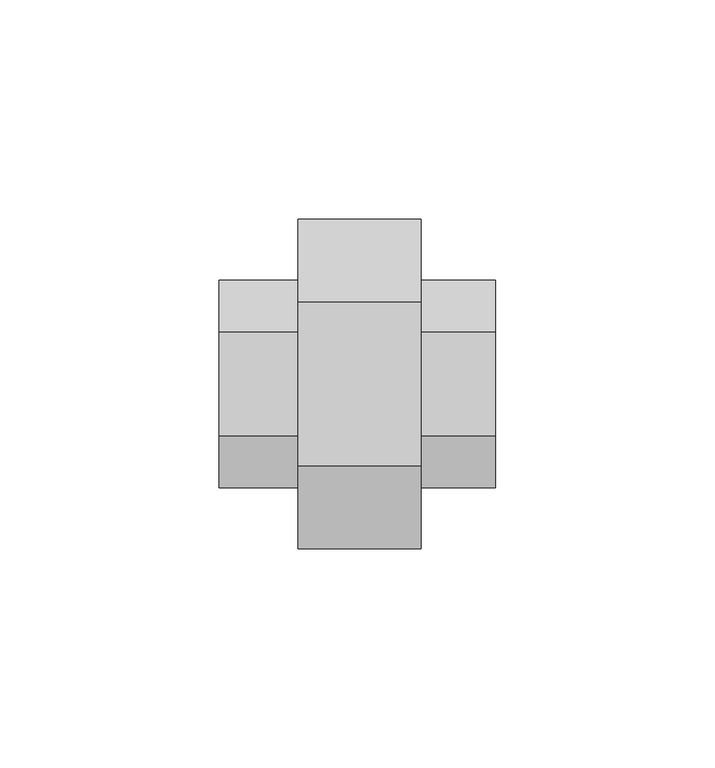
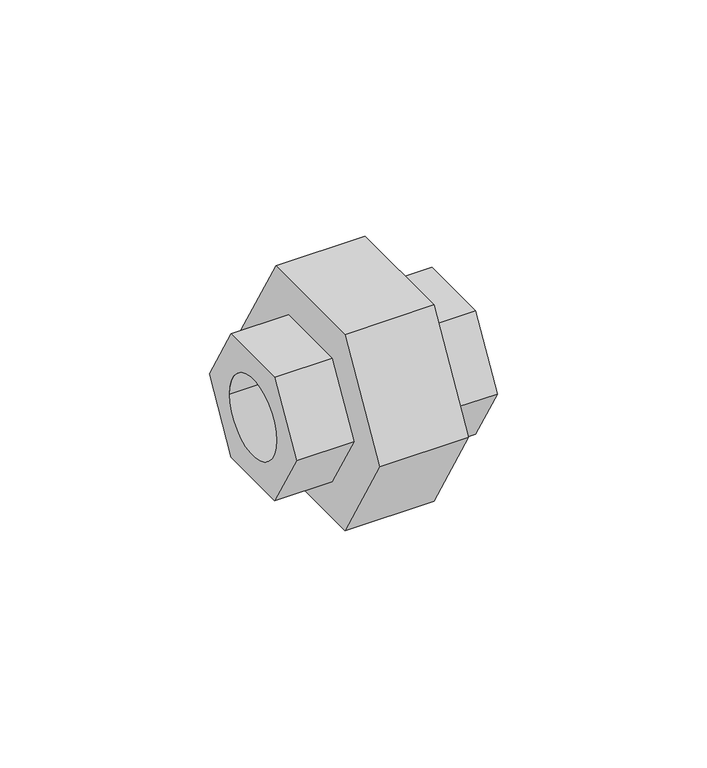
"""IFC4 building model written with IfcOpenShell, lengths in millimetres: pipe fitting geometry, 01011014 : Junções."""

from ifc_helpers import new_model, si_unit, frame, origin, place, context, project, spatial, polyline, circle_curve, source, transform, mapped, element, save
from ifc_brep_helpers import plane_surface, revolved_surface, advanced_brep


def pipe_fitting_54e7bb2c(model_context):
    return source(origin(), model_context, "Body", "AdvancedBrep", [
        advanced_brep(
        [(18.0, -18.7638837, 32.5), (18.0, -37.5277675, 0.0), (18.0, -18.7638837, -32.5), (18.0, 18.7638837, -32.5), (18.0, 37.5277675, 0.0), (18.0, 18.7638837, 32.5), (18.0, -11.8356805, 20.5), (18.0, 11.8356805, 20.5), (18.0, 23.671361, 0.0), (18.0, 11.8356805, -20.5), (18.0, -11.8356805, -20.5), (18.0, -23.671361, 0.0), (-10.0, -18.7638837, 32.5), (-10.0, 18.7638837, 32.5), (-10.0, 37.5277675, 0.0), (-10.0, 18.7638837, -32.5), (-10.0, -18.7638837, -32.5), (-10.0, -37.5277675, 0.0), (-10.0, 11.8356805, 20.5), (-10.0, -11.8356805, 20.5), (-10.0, -23.671361, 0.0), (-10.0, -11.8356805, -20.5), (-10.0, 11.8356805, -20.5), (-10.0, 23.671361, 0.0), (-28.0, -11.8356805, 20.5), (-28.0, 11.8356805, 20.5), (-28.0, 23.671361, 0.0), (-28.0, 11.8356805, -20.5), (-28.0, -11.8356805, -20.5), (-28.0, -23.671361, 0.0), (-28.0, -12.7, 0.0), (-28.0, 12.7, 0.0), (35.0, -11.8356805, 20.5), (35.0, -23.671361, 0.0), (35.0, -11.8356805, -20.5), (35.0, 11.8356805, -20.5), (35.0, 23.671361, 0.0), (35.0, 11.8356805, 20.5), (35.0, 12.7, 0.0), (35.0, -12.7, 0.0)],
        [
            (0, 1),
            (1, 2),
            (2, 3),
            (3, 4),
            (4, 5),
            (5, 0),
            (6, 7),
            (7, 8),
            (8, 9),
            (9, 10),
            (10, 11),
            (11, 6),
            (12, 13),
            (13, 14),
            (14, 15),
            (15, 16),
            (16, 17),
            (17, 12),
            (18, 19),
            (19, 20),
            (20, 21),
            (21, 22),
            (22, 23),
            (23, 18),
            (0, 12),
            (17, 1),
            (16, 2),
            (15, 3),
            (14, 4),
            (13, 5),
            (24, 25),
            (25, 26),
            (26, 27),
            (27, 28),
            (28, 29),
            (29, 24),
            (30, 31, circle_curve(frame((-28.0, 0.0, 0.0), z_axis=(1.0, 0.0, 0.0), x_axis=(0.0, 1.0, 0.0)), 12.7)),
            (31, 30, circle_curve(frame((-28.0, 0.0, 0.0), z_axis=(1.0, 0.0, 0.0), x_axis=(0.0, 1.0, 0.0)), 12.7)),
            (32, 33),
            (33, 34),
            (34, 35),
            (35, 36),
            (36, 37),
            (37, 32),
            (38, 39, circle_curve(frame((35.0, 0.0, 0.0), z_axis=(-1.0, 0.0, 0.0), x_axis=(0.0, 1.0, 0.0)), 12.7)),
            (39, 38, circle_curve(frame((35.0, 0.0, 0.0), z_axis=(-1.0, 0.0, 0.0), x_axis=(0.0, 1.0, 0.0)), 12.7)),
            (24, 19),
            (18, 25),
            (37, 7),
            (6, 32),
            (23, 26),
            (36, 8),
            (22, 27),
            (35, 9),
            (21, 28),
            (34, 10),
            (20, 29),
            (33, 11),
            (38, 31),
            (30, 39),
        ],
        [
            plane_surface(frame((18.0, -18.7638837, 32.5), z_axis=(1.0, 0.0, 0.0), x_axis=(0.0, -0.5000000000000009, -0.8660254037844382))),
            plane_surface(frame((-10.0, -18.7638837, 32.5), z_axis=(-1.0, 0.0, 0.0), x_axis=(0.0, 0.5000000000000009, 0.8660254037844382))),
            plane_surface(frame((18.0, -18.7638837, 32.5), z_axis=(0.0, -0.8660254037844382, 0.5000000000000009), x_axis=(-1.0, 0.0, 0.0))),
            plane_surface(frame((18.0, -37.5277675, 0.0), z_axis=(0.0, -0.8660254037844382, -0.500000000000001), x_axis=(-1.0, 0.0, 0.0))),
            plane_surface(frame((18.0, -18.7638837, -32.5), z_axis=(0.0, 0.0, -1.0), x_axis=(-1.0, 0.0, 0.0))),
            plane_surface(frame((18.0, 18.7638837, -32.5), z_axis=(0.0, 0.8660254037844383, -0.5000000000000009), x_axis=(-1.0, 0.0, 0.0))),
            plane_surface(frame((18.0, 37.5277675, 0.0), z_axis=(0.0, 0.8660254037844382, 0.5000000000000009), x_axis=(-1.0, 0.0, 0.0))),
            plane_surface(frame((18.0, 18.7638837, 32.5), z_axis=(0.0, 0.0, 1.0), x_axis=(-1.0, 0.0, 0.0))),
            plane_surface(frame((-28.0, 0.0, 0.0), z_axis=(-1.0, 0.0, 0.0), x_axis=(0.0, 0.0, 1.0))),
            plane_surface(frame((35.0, 0.0, 0.0), z_axis=(1.0, 0.0, 0.0), x_axis=(0.0, 0.0, 1.0))),
            plane_surface(frame((-28.0, -11.8356805, 20.5), z_axis=(0.0, 0.0, 1.0), x_axis=(1.0, 0.0, 0.0))),
            plane_surface(frame((-28.0, 11.8356805, 20.5), z_axis=(0.0, 0.866025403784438, 0.5000000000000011), x_axis=(1.0, 0.0, 0.0))),
            plane_surface(frame((-28.0, 23.671361, 0.0), z_axis=(0.0, 0.8660254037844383, -0.5000000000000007), x_axis=(1.0, 0.0, 0.0))),
            plane_surface(frame((-28.0, 11.8356805, -20.5), z_axis=(0.0, 0.0, -1.0), x_axis=(1.0, 0.0, 0.0))),
            plane_surface(frame((-28.0, -11.8356805, -20.5), z_axis=(0.0, -0.866025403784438, -0.5000000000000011), x_axis=(1.0, 0.0, 0.0))),
            plane_surface(frame((-28.0, -23.671361, 0.0), z_axis=(0.0, -0.8660254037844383, 0.5000000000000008), x_axis=(1.0, 0.0, 0.0))),
            revolved_surface(polyline([(35.0, 12.7, 0.0), (-28.0, 12.7, 0.0)]), (-28.0, 0.0, 0.0), (1.0, 0.0, 0.0)),
        ],
        [
            (0, [[1, 2, 3, 4, 5, 6], [7, 8, 9, 10, 11, 12]]),
            (1, [[13, 14, 15, 16, 17, 18], [19, 20, 21, 22, 23, 24]]),
            (2, [[-1, 25, -18, 26]]),
            (3, [[-2, -26, -17, 27]]),
            (4, [[-3, -27, -16, 28]]),
            (5, [[-4, -28, -15, 29]]),
            (6, [[-5, -29, -14, 30]]),
            (7, [[-6, -30, -13, -25]]),
            (8, [[31, 32, 33, 34, 35, 36], [37, 38]]),
            (9, [[39, 40, 41, 42, 43, 44], [45, 46]]),
            (10, [[-31, 47, -19, 48]]),
            (10, [[-44, 49, -7, 50]]),
            (11, [[-32, -48, -24, 51]]),
            (11, [[-43, 52, -8, -49]]),
            (12, [[-33, -51, -23, 53]]),
            (12, [[-42, 54, -9, -52]]),
            (13, [[-34, -53, -22, 55]]),
            (13, [[-41, 56, -10, -54]]),
            (14, [[-35, -55, -21, 57]]),
            (14, [[-40, 58, -11, -56]]),
            (15, [[-36, -57, -20, -47]]),
            (15, [[-39, -50, -12, -58]]),
            (16, [[59, -37, 60, -45]]),
            (16, [[-59, -46, -60, -38]]),
        ],
    ),
    ])


if __name__ == "__main__":
    model = new_model("IFC4")
    model_context = context("Model", 3, world=origin())
    ifc_project = project(units=[si_unit("LENGTHUNIT", "METRE", prefix="MILLI")], contexts=[model_context])
    site = spatial("IfcSite", under=ifc_project)
    building = spatial("IfcBuilding", under=site)
    placement = place(None, origin())
    pipe_fitting_shape = pipe_fitting_54e7bb2c(model_context)
    element("IfcPipeFitting", 1, ObjectType="01011014 : Junções", at=placement, inside=building, context=model_context, shape_type="MappedRepresentation", body=[
        mapped(pipe_fitting_shape, transform((0.0, 0.0, 0.0), x_axis=(1.0, 0.0, 0.0), y_axis=(0.0, 1.0, 0.0), z_axis=(0.0, 0.0, 1.0))),
    ])
    save(model, "model.ifc")
